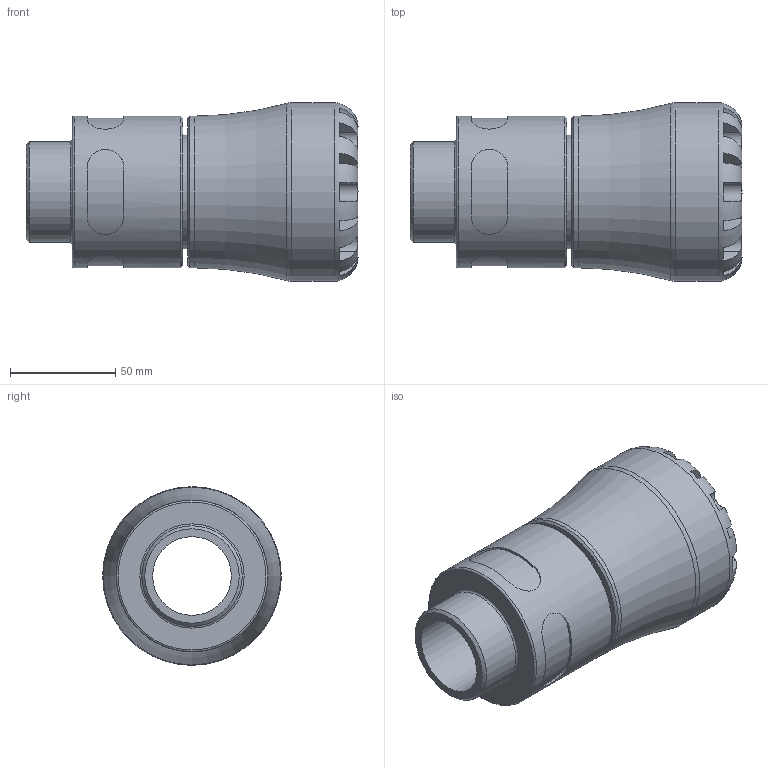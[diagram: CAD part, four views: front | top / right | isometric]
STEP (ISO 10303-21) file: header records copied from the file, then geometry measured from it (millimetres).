
FILE_DESCRIPTION(/* description */ ('PLASSON MALE ADAPTOR 50X1.1/2" SERIES 1'),/* implementation_level */ '2;1');
FILE_NAME(/* name */ 'C:\Dropbox\KIMPROJECTS-Inventor 2019\99-16-3568-Processing\S1\10N20\stp\10N200050015_10N2G0050015.stp',/* time_stamp */ '2024-03-12T13:20:00+01:00',/* author */ ('KIM'),/* organization */ (''),/* preprocessor_version */ 'ST-DEVELOPER v17.2',/* originating_system */ 'Autodesk Inventor 2019',/* authorisation */ '');
FILE_SCHEMA (('AUTOMOTIVE_DESIGN { 1 0 10303 214 3 1 1 }'));
Length unit declared in the file: millimetre
Products named in the file (1): 10N200050015_10N2G0050015
Bounding box: 158 x 85 x 85 mm (x, y, z)
Volume: 409034.1 mm3; surface area: 69815 mm2
Topology: 1 solids, 1 shells, 106 faces, 279 edges, 182 vertices
Faces by surface type: plane 62, cylinder 35, torus 5, cone 4
Full cylindrical faces by diameter (mm): 37.5 x1, 47.803 x1, 50 x1, 54 x1, 72.25 x2, 85 x1
Entity records: 4222 total; most frequent: CARTESIAN_POINT 1488, ORIENTED_EDGE 558, DIRECTION 552, EDGE_CURVE 279, AXIS2_PLACEMENT_3D 230, VERTEX_POINT 182, CIRCLE 123, EDGE_LOOP 115
